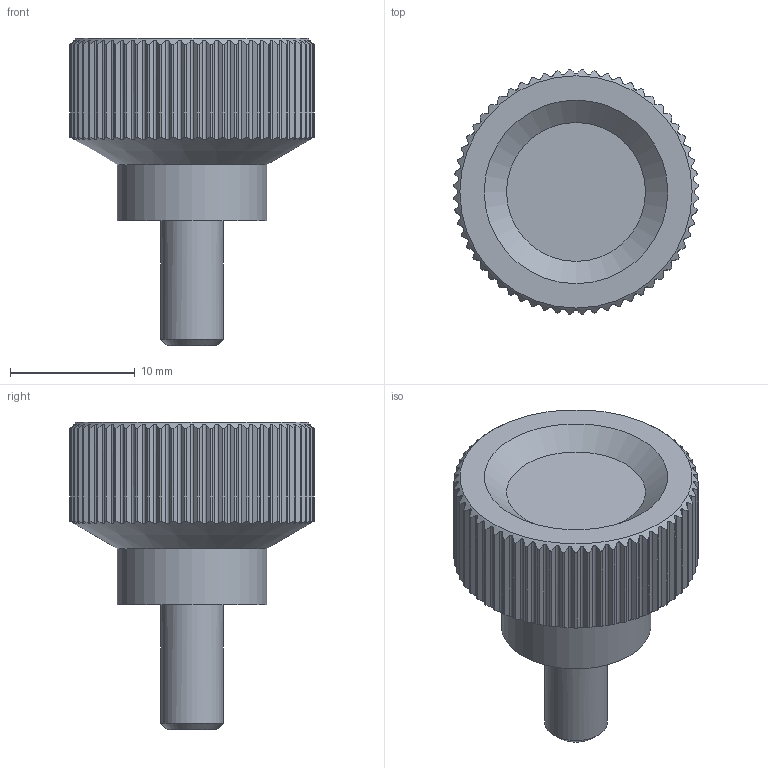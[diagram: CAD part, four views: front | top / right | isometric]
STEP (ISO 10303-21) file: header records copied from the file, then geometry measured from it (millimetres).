
FILE_DESCRIPTION( ('This file contains a STEP AP42 implementation' ,'as created by ZW3D STEP Interface translator.') ,'2;1' );
FILE_NAME( 'Pokretlo radelkowe 20 GZ.stp' ,'26 7 6.113337', (''), ('ZWCAD Software Co.'), 'Version 1.0', 'ZW3D to STEP translator', '' );
FILE_SCHEMA(('AP242_MANAGED_MODEL_BASED_3D_ENGINEERING_MIM_LF { 1 0 10303 442 1 1 4 }'));
Length unit declared in the file: millimetre
Products named in the file (1): 0
Bounding box: 19.58 x 19.58 x 24.6 mm (x, y, z)
Volume: 3242.1 mm3; surface area: 1855.9 mm2
Topology: 2 solids, 2 shells, 269 faces, 792 edges, 534 vertices
Faces by surface type: plane 142, cylinder 123, cone 4
Full cylindrical faces by diameter (mm): 5 x2, 12 x1
Entity records: 9561 total; most frequent: CARTESIAN_POINT 2907, ORIENTED_EDGE 1574, DIRECTION 1117, EDGE_CURVE 787, VERTEX_POINT 524, AXIS2_PLACEMENT_3D 417, VECTOR 283, LINE 283
